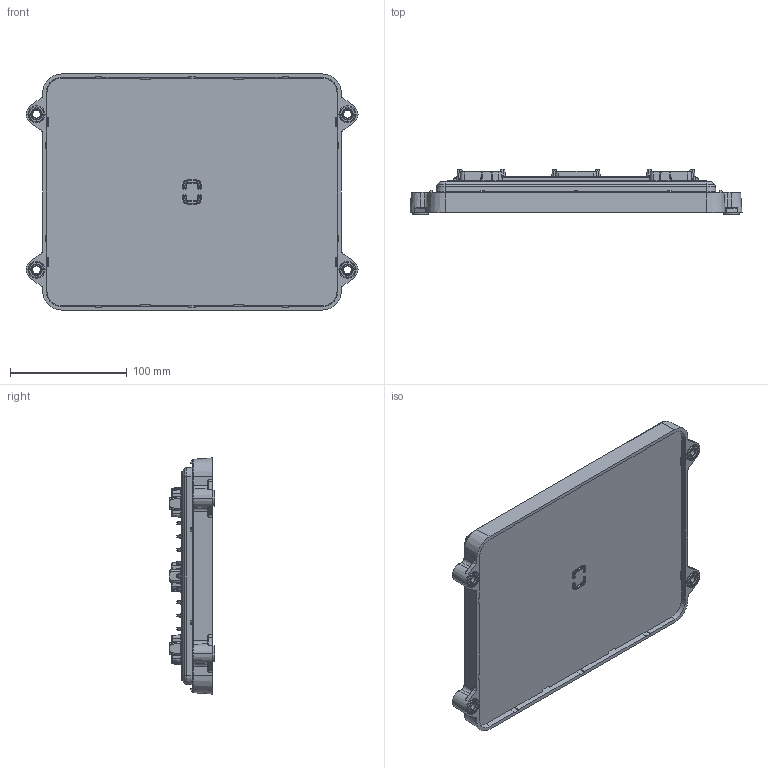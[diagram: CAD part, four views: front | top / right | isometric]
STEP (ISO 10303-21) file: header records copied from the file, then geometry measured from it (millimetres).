
FILE_DESCRIPTION (( 'STEP AP203' ), '1' );
FILE_NAME ('CL-450.STEP', '2015-04-30T14:46:36', ( '' ), ( '' ), 'SwSTEP 2.0', 'SolidWorks 2013', '' );
FILE_SCHEMA (( 'CONFIG_CONTROL_DESIGN' ));
Products named in the file (1): CL-450
Bounding box: 284.7 x 39 x 202.5 mm (x, y, z)
Volume: 1052256.1 mm3; surface area: 232344.8 mm2
Topology: 1 solids, 9 shells, 4274 faces, 10863 edges, 6611 vertices
Faces by surface type: plane 1485, cylinder 1402, bspline 783, torus 293, cone 191, sphere 120
Entity records: 149923 total; most frequent: CARTESIAN_POINT 55042, ORIENTED_EDGE 21454, DIRECTION 17979, EDGE_CURVE 10727, VERTEX_POINT 6611, AXIS2_PLACEMENT_3D 6248, LINE 5483, VECTOR 5483
